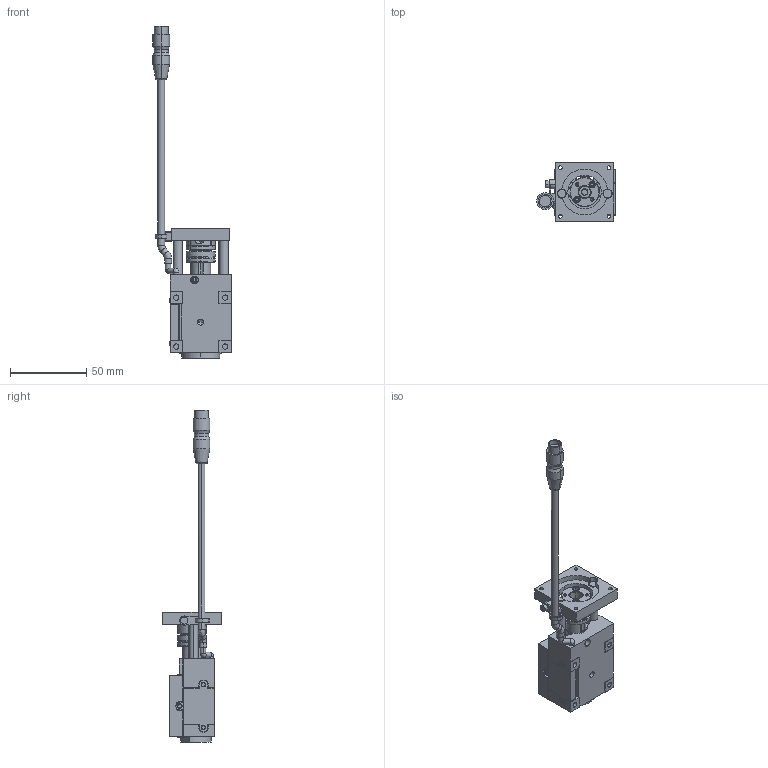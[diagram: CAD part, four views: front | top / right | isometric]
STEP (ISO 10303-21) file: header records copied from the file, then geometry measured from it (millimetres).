
FILE_DESCRIPTION(('STEP AP203'),'1');
FILE_NAME('C:/3D-Trans/3D_KXC04015V-S38+161007.step','2016-10-07T07:57:19',(' '),(' '),'Spatial InterOp 3D',' ',' ');
FILE_SCHEMA(('CONFIG_CONTROL_DESIGN'));
Length unit declared in the file: millimetre
Products named in the file (3): 1; 2; 3
Bounding box: 51.3 x 38 x 217.3 mm (x, y, z)
Volume: 61428.8 mm3; surface area: 34976.7 mm2
Topology: 3 solids, 8 shells, 921 faces, 2321 edges, 1474 vertices
Faces by surface type: cylinder 383, plane 330, cone 178, torus 30
Entity records: 28697 total; most frequent: CARTESIAN_POINT 5627, DIRECTION 5100, ORIENTED_EDGE 4596, EDGE_CURVE 2298, AXIS2_PLACEMENT_3D 1956, VERTEX_POINT 1474, LINE 1188, VECTOR 1188
